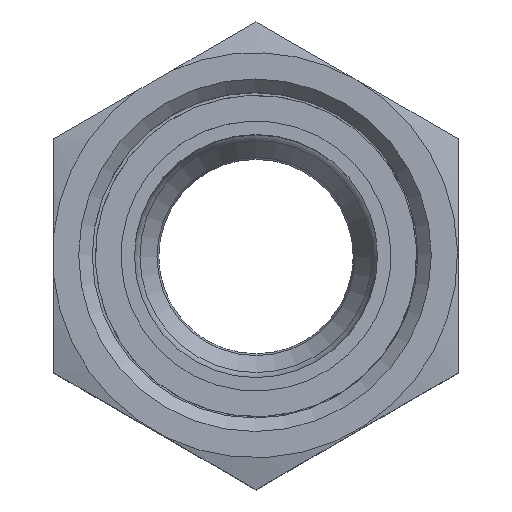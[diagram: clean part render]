
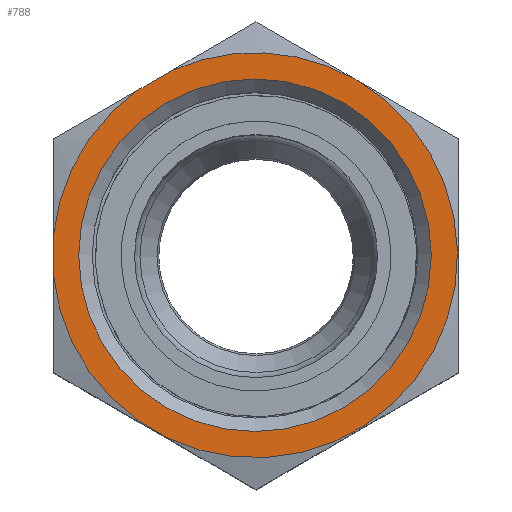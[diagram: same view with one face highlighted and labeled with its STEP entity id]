
A CAD part, top view. The second image highlights one B-rep face of the part: STEP entity #788.
In plain terms, the highlighted planar face has unit normal (0, 0, 1) as drawn and (0, 0, -1) by its records, which use the part's own axes.
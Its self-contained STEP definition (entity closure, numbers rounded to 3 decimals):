
#59=FACE_BOUND('',#227,.T.);
#68=PLANE('',#988);
#98=LINE('',#1458,#124);
#99=LINE('',#1462,#125);
#100=LINE('',#1465,#126);
#124=VECTOR('',#1223,10.);
#125=VECTOR('',#1226,10.);
#126=VECTOR('',#1229,10.);
#176=FACE_OUTER_BOUND('',#226,.T.);
#226=EDGE_LOOP('',(#667,#668,#669,#670,#671,#672));
#227=EDGE_LOOP('',(#673));
#305=CIRCLE('',#982,13.059);
#310=CIRCLE('',#989,15.);
#311=CIRCLE('',#990,15.);
#312=CIRCLE('',#991,15.);
#369=VERTEX_POINT('',#1440);
#374=VERTEX_POINT('',#1454);
#375=VERTEX_POINT('',#1455);
#376=VERTEX_POINT('',#1457);
#377=VERTEX_POINT('',#1459);
#378=VERTEX_POINT('',#1461);
#379=VERTEX_POINT('',#1463);
#470=EDGE_CURVE('',#369,#369,#305,.T.);
#477=EDGE_CURVE('',#374,#375,#310,.T.);
#478=EDGE_CURVE('',#375,#376,#98,.T.);
#479=EDGE_CURVE('',#376,#377,#311,.T.);
#480=EDGE_CURVE('',#377,#378,#99,.T.);
#481=EDGE_CURVE('',#378,#379,#312,.T.);
#482=EDGE_CURVE('',#379,#374,#100,.T.);
#667=ORIENTED_EDGE('',*,*,#477,.T.);
#668=ORIENTED_EDGE('',*,*,#478,.T.);
#669=ORIENTED_EDGE('',*,*,#479,.T.);
#670=ORIENTED_EDGE('',*,*,#480,.T.);
#671=ORIENTED_EDGE('',*,*,#481,.T.);
#672=ORIENTED_EDGE('',*,*,#482,.T.);
#673=ORIENTED_EDGE('',*,*,#470,.F.);
#788=ADVANCED_FACE('',(#176,#59),#68,.F.);
#982=AXIS2_PLACEMENT_3D('',#1441,#1205,#1206);
#988=AXIS2_PLACEMENT_3D('',#1453,#1219,#1220);
#989=AXIS2_PLACEMENT_3D('',#1456,#1221,#1222);
#990=AXIS2_PLACEMENT_3D('',#1460,#1224,#1225);
#991=AXIS2_PLACEMENT_3D('',#1464,#1227,#1228);
#1205=DIRECTION('center_axis',(0.,0.,-1.));
#1206=DIRECTION('ref_axis',(0.,-1.,0.));
#1219=DIRECTION('center_axis',(0.,0.,1.));
#1220=DIRECTION('ref_axis',(1.,0.,0.));
#1221=DIRECTION('center_axis',(0.,0.,-1.));
#1222=DIRECTION('ref_axis',(0.,1.,0.));
#1223=DIRECTION('',(0.866,0.5,0.));
#1224=DIRECTION('center_axis',(0.,0.,-1.));
#1225=DIRECTION('ref_axis',(0.,1.,0.));
#1226=DIRECTION('',(0.866,-0.5,0.));
#1227=DIRECTION('center_axis',(0.,0.,-1.));
#1228=DIRECTION('ref_axis',(0.,1.,0.));
#1229=DIRECTION('',(0.,1.,0.));
#1440=CARTESIAN_POINT('',(0.,13.059,0.));
#1441=CARTESIAN_POINT('Origin',(0.,0.,0.));
#1453=CARTESIAN_POINT('Origin',(0.,-0.085,
0.));
#1454=CARTESIAN_POINT('',(-15.,0.076,0.));
#1455=CARTESIAN_POINT('',(-8.75,12.184,0.));
#1456=CARTESIAN_POINT('Origin',(0.,0.,0.));
#1457=CARTESIAN_POINT('',(-6.177,13.669,0.));
#1458=CARTESIAN_POINT('',(-15.,8.575,0.));
#1459=CARTESIAN_POINT('',(6.178,13.668,0.));
#1460=CARTESIAN_POINT('Origin',(0.,0.,0.));
#1461=CARTESIAN_POINT('',(8.748,12.185,0.));
#1462=CARTESIAN_POINT('',(0.,17.235,0.));
#1463=CARTESIAN_POINT('',(-15.,-0.076,0.));
#1464=CARTESIAN_POINT('Origin',(0.,0.,0.));
#1465=CARTESIAN_POINT('',(-15.,-8.745,0.));
